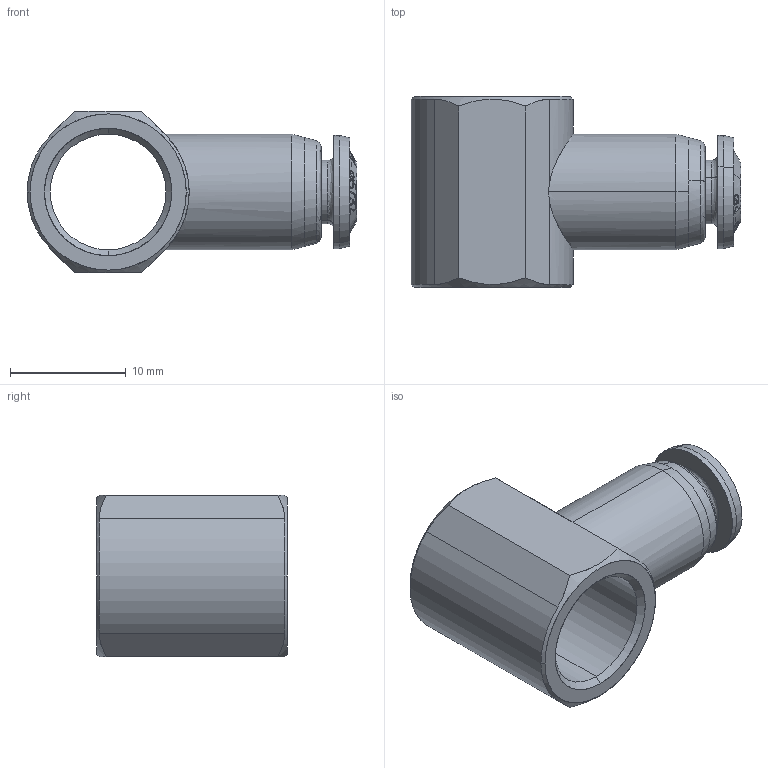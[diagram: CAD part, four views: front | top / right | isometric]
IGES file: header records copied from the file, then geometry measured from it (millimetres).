
Start section: SolidWorks IGES file using analytic representation for surfaces
Global section: file name: K:\Disegni Esecutivi\ALPHA TECHNOLOGIES\85000\Assiemi-85000\85500\IGES\8550000004A.IGS; native system: SolidWorks 2016; preprocessor: SolidWorks 2016; author: cad06; date: 200520.130727; units: millimetre
Bounding box: 28.5 x 16.5 x 14 mm (x, y, z)
Surface area: 2091.9 mm2 (no closed solid volume)
Topology: 0 solids, 0 shells, 164 faces, 1703 edges, 1703 vertices
Faces by surface type: bspline 120, revolution 44
